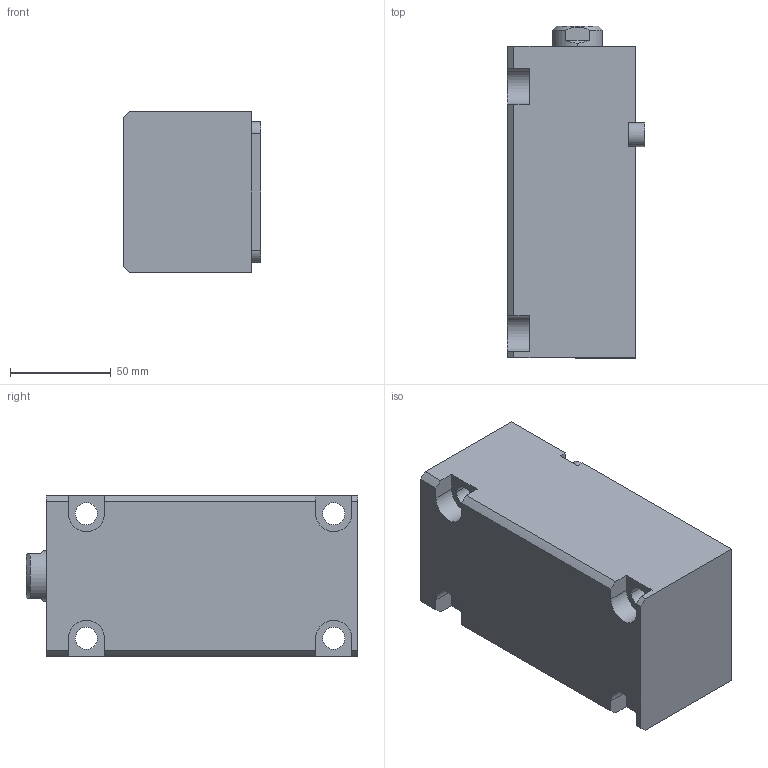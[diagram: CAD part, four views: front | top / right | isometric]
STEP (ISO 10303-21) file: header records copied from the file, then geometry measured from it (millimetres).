
FILE_DESCRIPTION (( 'STEP AP214' ), '1' );
FILE_NAME ('chtb-lam40x100n_asm.STEP', '2018-05-29T08:08:57', ( 'Windows' ), ( 'Microsoft' ), 'SwSTEP 2.0', 'SolidWorks 2015', '' );
FILE_SCHEMA (( 'AUTOMOTIVE_DESIGN' ));
Length unit declared in the file: millimetre
Products named in the file (5): CHTB-SD40X100NHSG; CHTB-SD40QG; CHTB-LAM40X100NBT; CHTB-LA40PJ; chtb-lam40x100n_asm
Assembly tree (4 placements, depth 2):
  chtb-lam40x100n_asm
    CHTB-LA40PJ
    CHTB-LAM40X100NBT
    CHTB-SD40QG
    CHTB-SD40X100NHSG
Bounding box: 68.5 x 165 x 80 mm (x, y, z)
Volume: 679551.4 mm3; surface area: 114098.4 mm2
Topology: 4 solids, 4 shells, 154 faces, 418 edges, 278 vertices
Faces by surface type: cylinder 73, plane 46, bspline 14, torus 12, cone 9
Entity records: 10092 total; most frequent: CARTESIAN_POINT 6074, ORIENTED_EDGE 824, DIRECTION 755, EDGE_CURVE 412, AXIS2_PLACEMENT_3D 300, VERTEX_POINT 278, EDGE_LOOP 180, LINE 155
